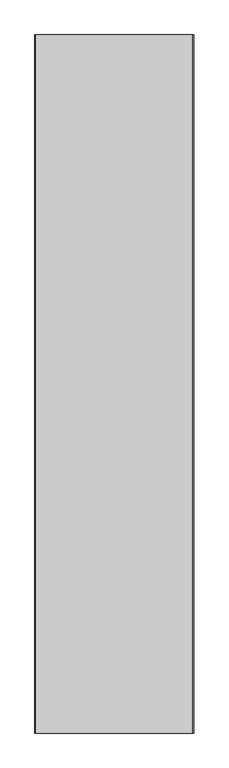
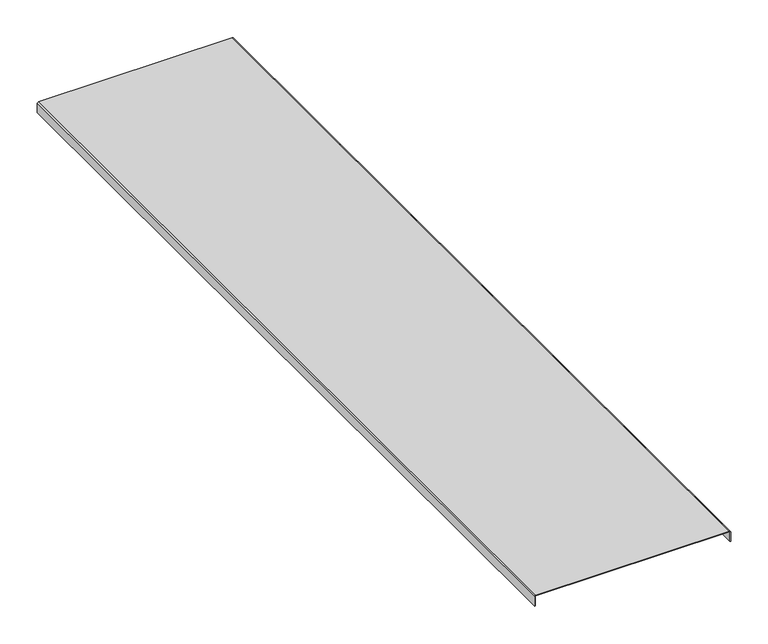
"""IFC4 building model written with IfcOpenShell, lengths in millimetres: proxy geometry, Cable_Tray_Cover_CT_Basorcanal : Basorcanal CT 100X300 (cover)."""

from ifc_helpers import new_model, si_unit, point, frame, frame_2d, origin, place, context, project, spatial, polyline, circle_curve, trimmed, segment, composite_curve, outline, extrude, source, transform, mapped, element, save


def generic_models_31582465(model_context):
    return source(origin(), model_context, "Body", "SweptSolid", [
        extrude(outline(composite_curve([segment(trimmed(circle_curve(frame_2d((-1.0, -149.0)), 1.0), [point((-1.0, -150.0))], [point((0.0, -149.0))], True, "CARTESIAN"), True, "CONTINUOUS"), segment(polyline([(0.0, -149.0), (0.0, 149.0)]), True, "CONTINUOUS"), segment(trimmed(circle_curve(frame_2d((-1.0, 149.0)), 1.0), [point((0.0, 149.0))], [point((-1.0, 150.0))], True, "CARTESIAN"), True, "CONTINUOUS"), segment(polyline([(-1.0, 150.0), (-16.0, 150.0), (-16.0, 151.0), (-1.0, 151.0)]), True, "CONTINUOUS"), segment(trimmed(circle_curve(frame_2d((-1.0, 149.0)), 2.0), [point((-1.0, 151.0))], [point((1.0, 149.0))], False, "CARTESIAN"), True, "CONTINUOUS"), segment(polyline([(1.0, 149.0), (1.0, -149.0)]), True, "CONTINUOUS"), segment(trimmed(circle_curve(frame_2d((-1.0, -149.0)), 2.0), [point((1.0, -149.0))], [point((-1.0, -151.0))], False, "CARTESIAN"), True, "CONTINUOUS"), segment(polyline([(-1.0, -151.0), (-16.0, -151.0), (-16.0, -150.0), (-1.0, -150.0)]), True, "CONTINUOUS")], self_intersect=False)), frame((0.0, 0.0, 0.0), z_axis=(0.0, 1.0, 0.0), x_axis=(0.0, 0.0, 1.0)), (0.0, 0.0, 1.0), 1326.5),
    ])


if __name__ == "__main__":
    model = new_model("IFC4")
    model_context = context("Model", 3, world=origin())
    ifc_project = project(units=[si_unit("LENGTHUNIT", "METRE", prefix="MILLI")], contexts=[model_context])
    site = spatial("IfcSite", under=ifc_project)
    building = spatial("IfcBuilding", under=site)
    placement = place(None, origin())
    generic_models_shape = generic_models_31582465(model_context)
    element("IfcBuildingElementProxy", 1, Name="Cable_Tray_Cover_CT_Basorcanal : Basorcanal CT 100X300 (cover)", ObjectType="Cable_Tray_Cover_CT_Basorcanal : Basorcanal CT 100X300 (cover)", at=placement, inside=building, context=model_context, shape_type="MappedRepresentation", body=[
        mapped(generic_models_shape, transform((0.0, 0.0, 0.0), x_axis=(1.0, 0.0, 0.0), y_axis=(0.0, 1.0, 0.0), z_axis=(0.0, 0.0, 1.0))),
    ])
    save(model, "model.ifc")
